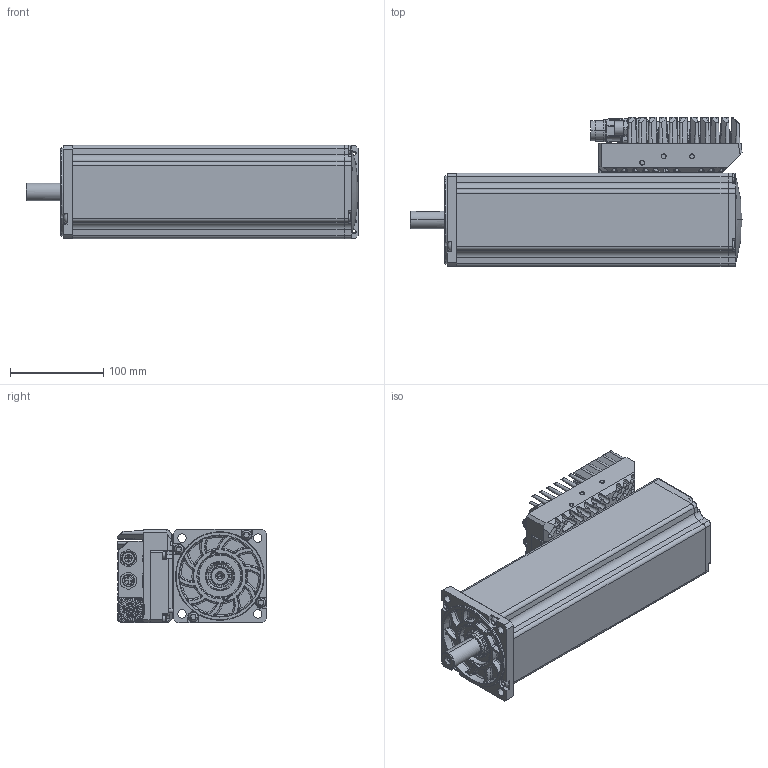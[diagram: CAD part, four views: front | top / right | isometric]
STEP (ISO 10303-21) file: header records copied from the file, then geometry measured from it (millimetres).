
FILE_DESCRIPTION((''),'2;1');
FILE_NAME('60778N-0_SW0001','2015-09-09T',('hegenwang'),(''),'PRO/ENGINEER BY PARAMETRIC TECHNOLOGY CORPORATION, 2010430','PRO/ENGINEER BY PARAMETRIC TECHNOLOGY CORPORATION, 2010430','');
FILE_SCHEMA(('AUTOMOTIVE_DESIGN_CC2 { 1 2 10303 214 -1 1 5 2 }'));
Products named in the file (1): 60778N-0_SW0001
Bounding box: 356 x 159.8 x 100 mm (x, y, z)
Surface area: 272901.7 mm2 (no closed solid volume)
Topology: 0 solids, 111 shells, 1727 faces, 5333 edges, 3747 vertices
Faces by surface type: plane 763, cone 381, cylinder 327, bspline 95, torus 87, sphere 68, extrusion 4, revolution 2
Entity records: 96586 total; most frequent: CARTESIAN_POINT 24604, DIRECTION 9580, ORIENTED_EDGE 9230, PRESENTATION_STYLE_ASSIGNMENT 6580, STYLED_ITEM 5333, CURVE_STYLE 5295, EDGE_CURVE 5293, VERTEX_POINT 3747
